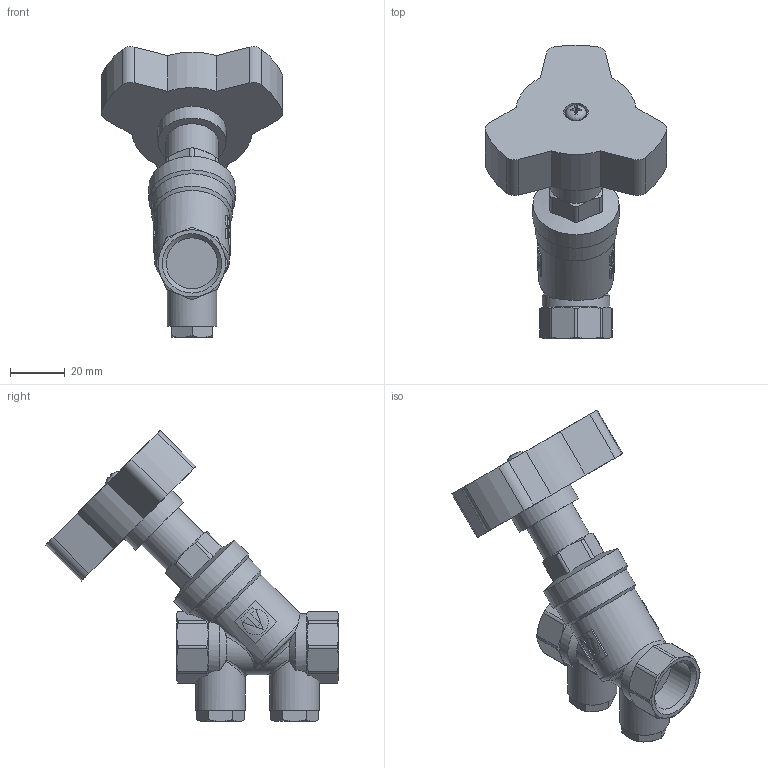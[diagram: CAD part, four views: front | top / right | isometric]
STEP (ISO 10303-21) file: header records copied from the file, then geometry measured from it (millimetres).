
FILE_DESCRIPTION(('STEP AP203'), '1');
FILE_NAME('覆.493116.002.000 捘 - VT.054.N.04', '2024-09-13T12:56:57', ('Boss'), (''), 'C3D Converter', 'C3D Toolkit', '');
FILE_SCHEMA(('CONFIG_CONTROL_DESIGN'));
Length unit declared in the file: millimetre
Products named in the file (3): ВР.493116.002.000 СБ
Assembly tree (2 placements, depth 2):
  ВР.493116.002.000 СБ
    (unnamed)
    (unnamed)
Bounding box: 66.31 x 106.84 x 106.04 mm (x, y, z)
Volume: 98841.3 mm3; surface area: 23515.3 mm2
Topology: 3 solids, 3 shells, 444 faces, 1170 edges, 759 vertices
Faces by surface type: plane 166, extrusion 119, cylinder 81, cone 64, bspline 11, torus 3
Full cylindrical faces by diameter (mm): 3.242 x1, 4 x1, 4.2 x1, 7.5 x1, 8.9 x1, 9 x1, 9.3 x1, 17.3 x1, 18 x2, 18.632 x2, 19 x1, 24.8 x1, 31.4 x1
Entity records: 24392 total; most frequent: CARTESIAN_POINT 14453, ORIENTED_EDGE 2274, DIRECTION 1534, EDGE_CURVE 1137, VERTEX_POINT 755, B_SPLINE_CURVE_WITH_KNOTS 593, VECTOR 538, AXIS2_PLACEMENT_3D 498
